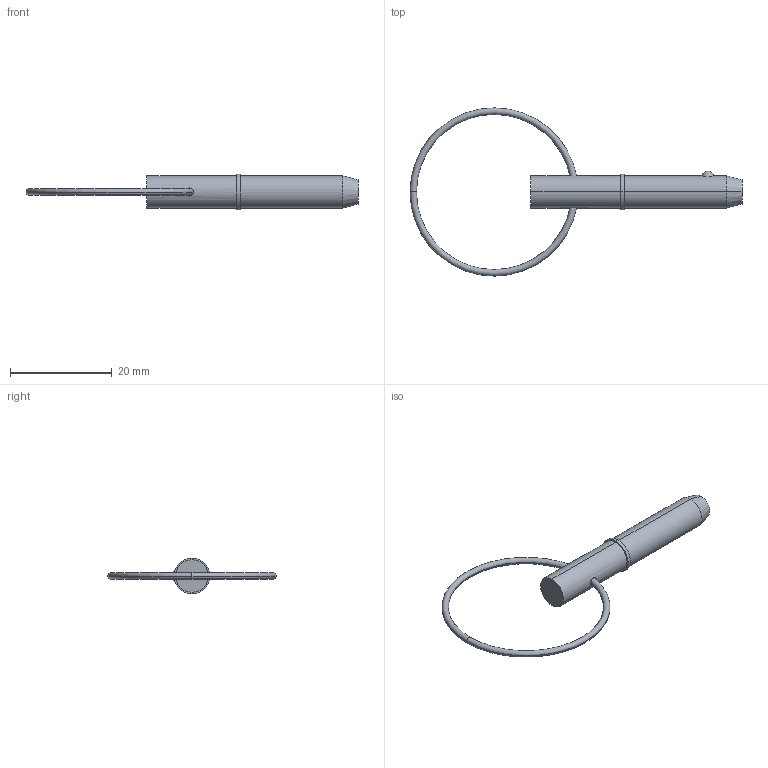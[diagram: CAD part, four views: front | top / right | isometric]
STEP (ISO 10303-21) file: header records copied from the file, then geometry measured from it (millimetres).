
FILE_DESCRIPTION (( 'STEP AP203' ), '1' );
FILE_NAME ('33016.W2506.step', '2024-11-07T11:02:05', ( '' ), ( '' ), 'SwSTEP 2.0', 'SolidWorks 2019', '' );
FILE_SCHEMA (( 'CONFIG_CONTROL_DESIGN' ));
Length unit declared in the file: millimetre
Products named in the file (3): Part1_33016.W2506; Part2_33016.W2506; 33016.W2506
Assembly tree (2 placements, depth 2):
  33016.W2506
    Part1_33016.W2506
    Part2_33016.W2506
Bounding box: 65.18 x 33.02 x 6.99 mm (x, y, z)
Volume: 1411.9 mm3; surface area: 1313.9 mm2
Topology: 2 solids, 2 shells, 22 faces, 43 edges, 26 vertices
Faces by surface type: torus 8, cylinder 6, plane 4, sphere 2, cone 2
Entity records: 971 total; most frequent: CARTESIAN_POINT 194, DIRECTION 120, ORIENTED_EDGE 86, AXIS2_PLACEMENT_3D 56, EDGE_CURVE 43, CIRCLE 29, EDGE_LOOP 27, PERSON_AND_ORGANIZATION 26
